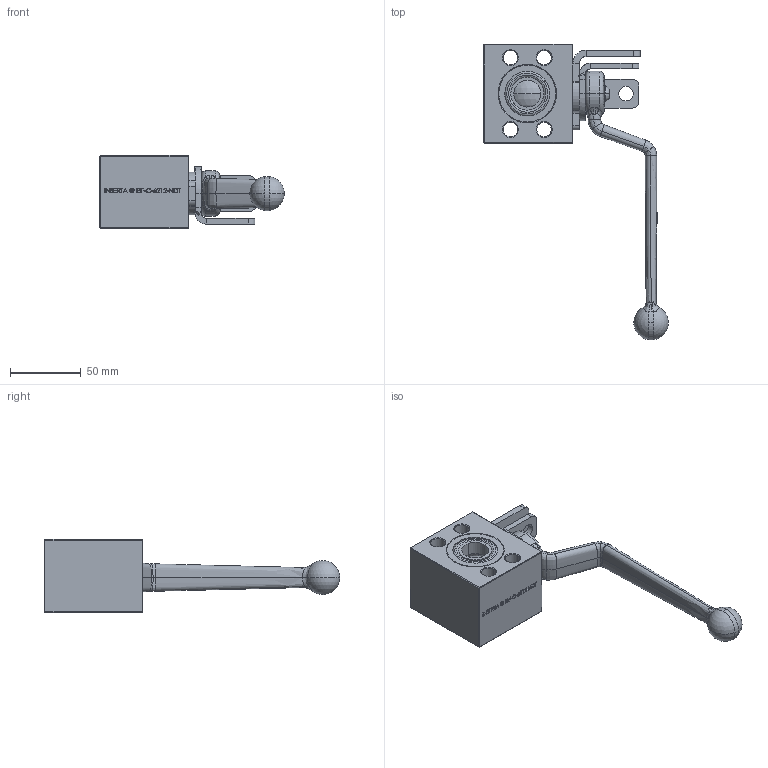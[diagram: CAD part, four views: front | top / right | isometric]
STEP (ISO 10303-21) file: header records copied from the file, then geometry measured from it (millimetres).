
FILE_DESCRIPTION (( 'STEP AP214' ), '1' );
FILE_NAME ('IBF-C-6212-N-D-T-Closed~.STEP', '2026-02-16T14:26:53', ( '' ), ( '' ), 'SwSTEP 2.0', 'SolidWorks 2025', '' );
FILE_SCHEMA (( 'AUTOMOTIVE_DESIGN' ));
Length unit declared in the file: inch
Products named in the file (1): IBF-C-6212-N-D-T-Closed~
Bounding box: 130.64 x 209.04 x 51.69 mm (x, y, z)
Volume: 247151.9 mm3; surface area: 71946 mm2
Topology: 2 solids, 5 shells, 1004 faces, 2717 edges, 1763 vertices
Faces by surface type: plane 483, bspline 197, cylinder 167, torus 64, cone 61, sphere 32
Entity records: 57081 total; most frequent: CARTESIAN_POINT 33614, ORIENTED_EDGE 5418, DIRECTION 4058, EDGE_CURVE 2709, VERTEX_POINT 1761, AXIS2_PLACEMENT_3D 1390, VECTOR 1278, LINE 1278
